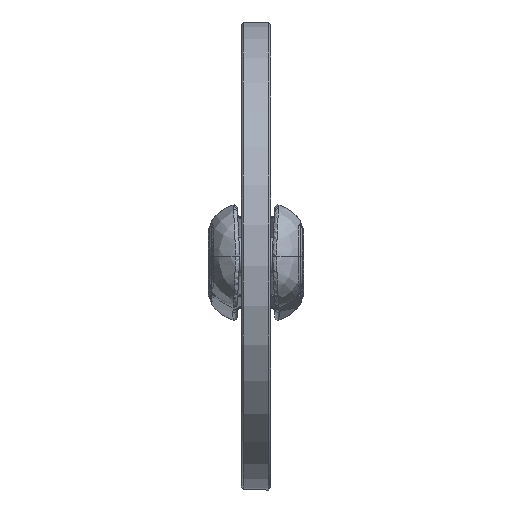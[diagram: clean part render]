
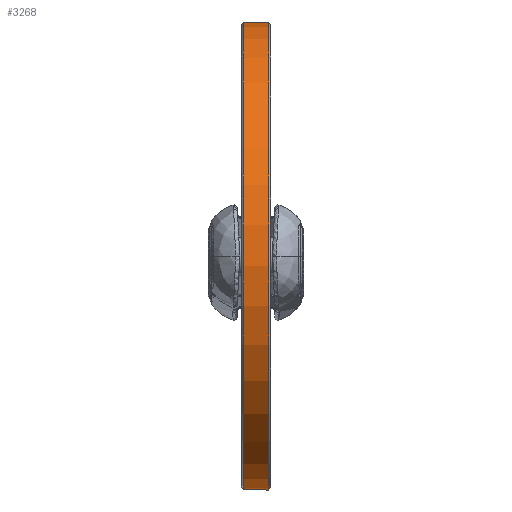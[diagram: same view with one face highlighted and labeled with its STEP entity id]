
A CAD part, top view. The second image highlights one B-rep face of the part: STEP entity #3268.
In plain terms, the highlighted cylindrical face has radius 317.5 mm (diameter 635 mm), a full revolution.
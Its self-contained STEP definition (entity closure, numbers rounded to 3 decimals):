
#795=FACE_BOUND($,#1511,.T.);
#990=CIRCLE($,#3632,317.5);
#991=CIRCLE($,#3634,317.5);
#1197=FACE_OUTER_BOUND($,#1510,.T.);
#1510=EDGE_LOOP($,(#2998));
#1511=EDGE_LOOP($,(#2999));
#1810=VERTEX_POINT($,#14024);
#1811=VERTEX_POINT($,#14027);
#2211=EDGE_CURVE($,#1810,#1810,#990,.T.);
#2212=EDGE_CURVE($,#1811,#1811,#991,.T.);
#2998=ORIENTED_EDGE($,*,*,#2212,.F.);
#2999=ORIENTED_EDGE($,*,*,#2211,.F.);
#3051=CYLINDRICAL_SURFACE($,#3633,317.5);
#3268=ADVANCED_FACE($,(#1197,#795),#3051,.T.);
#3632=AXIS2_PLACEMENT_3D($,#14025,#4421,#4422);
#3633=AXIS2_PLACEMENT_3D($,#14026,#4423,#4424);
#3634=AXIS2_PLACEMENT_3D($,#14028,#4425,#4426);
#4421=DIRECTION('center_axis',(0.,0.,-1.));
#4422=DIRECTION('ref_axis',(-1.,0.,0.));
#4423=DIRECTION('center_axis',(0.,0.,1.));
#4424=DIRECTION('ref_axis',(-1.,0.,0.));
#4425=DIRECTION('center_axis',(0.,0.,1.));
#4426=DIRECTION('ref_axis',(-1.,0.,0.));
#14024=CARTESIAN_POINT('',(317.5,0.,-17.));
#14025=CARTESIAN_POINT('Origin',(0.,0.,-17.));
#14026=CARTESIAN_POINT('Origin',(0.,0.,0.));
#14027=CARTESIAN_POINT('',(317.5,0.,17.));
#14028=CARTESIAN_POINT('Origin',(0.,0.,17.));
